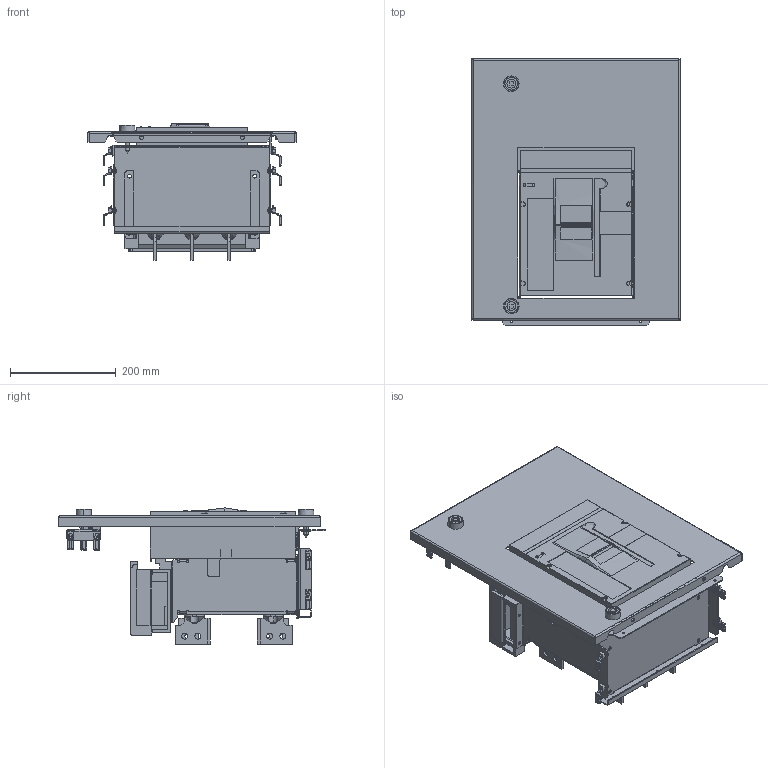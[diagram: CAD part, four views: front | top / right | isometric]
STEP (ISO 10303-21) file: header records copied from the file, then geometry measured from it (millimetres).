
FILE_DESCRIPTION(('CAx-IF Rec.Pracs.---Model Styling and Organization---1.2---2011-12-15','CAx-IF Rec.Pracs.---Geometric and Assembly Validation Properties---4.1---2014-06-16','CAx-IF Rec.Pracs.---PMI Polyline Presentation---2.0---2013-05-24'),'2;1');
FILE_NAME('R5PKEB7V41121.stp','2021-07-29T02:16:14+03:00',(''),(''),'STEP Interface 4.4 by CT CoreTechnologie','3D_Evolution4.4 by CT CoreTechnologie','');
FILE_SCHEMA(('AUTOMOTIVE_DESIGN { 1 0 10303 214 1 1 1 1 }'));
Length unit declared in the file: millimetre
Products named in the file (1): R5PKEB7V41121
Bounding box: 394 x 505 x 258 mm (x, y, z)
Surface area: 1657682.5 mm2 (no closed solid volume)
Topology: 0 solids, 64 shells, 2826 faces, 7497 edges, 4805 vertices
Faces by surface type: plane 1432, cylinder 1011, bspline 383
Entity records: 97636 total; most frequent: CARTESIAN_POINT 27955, ORIENTED_EDGE 14818, DIRECTION 14209, EDGE_CURVE 7415, VERTEX_POINT 4807, AXIS2_PLACEMENT_3D 4751, VECTOR 4707, LINE 4707
